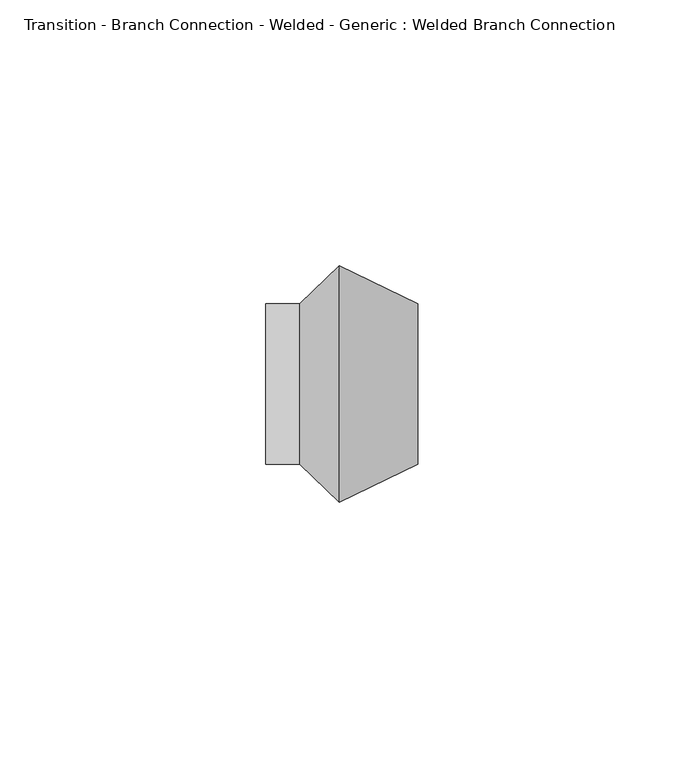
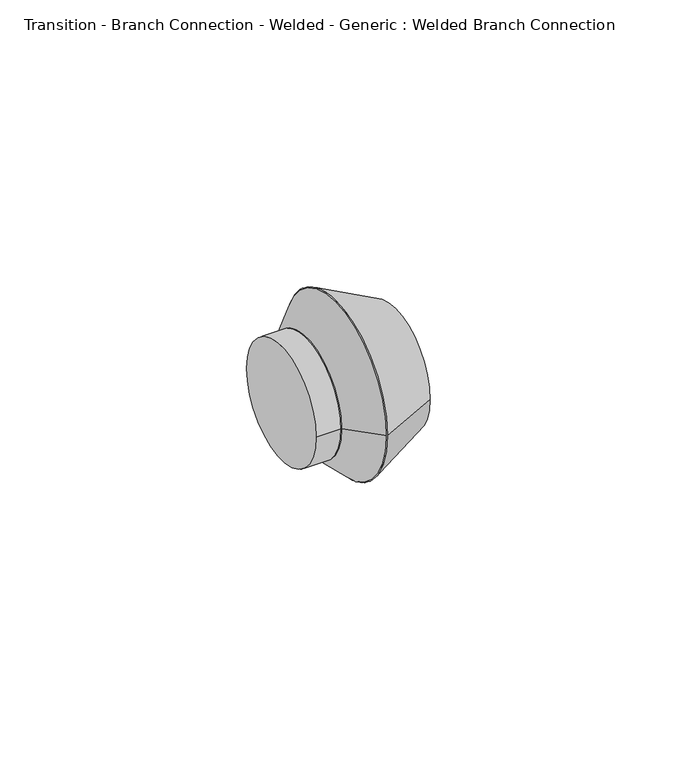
"""IFC4 building model written with IfcOpenShell, lengths in millimetres: pipe fitting geometry, Transition - Branch Connection - Welded - Generic : Welded Branch Connection."""

import ifcopenshell
import ifcopenshell.guid

model = None  # the IFC model being written
_history = None  # IfcOwnerHistory: only IFC2X3 demands one
_inside = {}  # id of a spatial element -> (the spatial element, [elements in it])
_under = {}  # id of a project, library or spatial element -> (it, [spatial elements below it])
_declared = {}  # id of a project -> (the project, [libraries it declares])
_typed = {}  # id of a type object -> (the type object, [elements of that type])
_made_of = {}  # id of a material, layer set ... -> (it, [elements and type objects made of it])


def new_model(schema):
    """Start an empty IFC model of exactly this schema.

    Asked for "IFC4X3", IfcOpenShell would pick the latest addendum, in which some entities
    have other attributes; the version numbers below select the first issue.
    IFC2X3 requires an IfcOwnerHistory on every rooted entity: one is made here for all.
    """
    global model, _history
    if schema == "IFC4X3":
        model = ifcopenshell.file(schema_version=(4, 3, 0, 0))
    else:
        model = ifcopenshell.file(schema=schema)
    _inside.clear()
    _under.clear()
    _declared.clear()
    _typed.clear()
    _made_of.clear()
    _history = None
    if model.schema == "IFC2X3":
        org = make("IfcOrganization", Name="unknown")
        user = make(
            "IfcPersonAndOrganization",
            ThePerson=make("IfcPerson", FamilyName="unknown"),
            TheOrganization=org,
        )
        app = make(
            "IfcApplication",
            ApplicationDeveloper=org,
            Version="unknown",
            ApplicationFullName="unknown",
            ApplicationIdentifier="unknown",
        )
        _history = make(
            "IfcOwnerHistory",
            OwningUser=user,
            OwningApplication=app,
            ChangeAction="ADDED",
            CreationDate=0,
        )
    return model


def make(cls, **values):
    """One entity of the class cls with the attributes given. An attribute that is None is left unset."""
    return model.create_entity(
        cls, **{name: value for name, value in values.items() if value is not None}
    )


def rooted(cls, **values):
    """An entity with a GlobalId (a new one), such as an element, a storey or a relation."""
    return make(cls, GlobalId=ifcopenshell.guid.new(), OwnerHistory=_history, **values)


def si_unit(unit_type, name, prefix=None):
    """IfcSIUnit, for example si_unit("LENGTHUNIT", "METRE", prefix="MILLI")."""
    return make("IfcSIUnit", UnitType=unit_type, Prefix=prefix, Name=name)


def assignment(units):
    """IfcUnitAssignment: the units of a project."""
    return None if units is None else make("IfcUnitAssignment", Units=units)


def point(xyz):
    """IfcCartesianPoint."""
    return None if xyz is None else make("IfcCartesianPoint", Coordinates=xyz)


def direction(xyz):
    """IfcDirection."""
    return None if xyz is None else make("IfcDirection", DirectionRatios=xyz)


def frame(location, z_axis=None, x_axis=None):
    """IfcAxis2Placement3D, a coordinate frame: its origin and axes. An axis left out is left unset."""
    return make(
        "IfcAxis2Placement3D",
        Location=point(location),
        Axis=direction(z_axis),
        RefDirection=direction(x_axis),
    )


def frame_2d(location, x_axis=None):
    """IfcAxis2Placement2D, a coordinate frame in the plane: its origin and x axis."""
    return make(
        "IfcAxis2Placement2D", Location=point(location), RefDirection=direction(x_axis)
    )


def origin():
    """The frame at (0, 0, 0) with its axes left unset."""
    return frame((0.0, 0.0, 0.0))


def origin_2d():
    """The frame at (0, 0) in the plane with its x axis left unset."""
    return frame_2d((0.0, 0.0))


def place(relative_to, where):
    """IfcLocalPlacement: puts the frame where relative to a parent placement (None: the world)."""
    return make(
        "IfcLocalPlacement", PlacementRelTo=relative_to, RelativePlacement=where
    )


def context(
    kind, dimensions, precision=None, world=None, true_north=None, identifier=None
):
    """IfcGeometricRepresentationContext, for example the 3D "Model" context."""
    return make(
        "IfcGeometricRepresentationContext",
        ContextIdentifier=identifier,
        ContextType=kind,
        CoordinateSpaceDimension=dimensions,
        Precision=precision,
        WorldCoordinateSystem=world,
        TrueNorth=true_north,
    )


def project(units=None, contexts=None):
    """IfcProject with its units and contexts."""
    return rooted(
        "IfcProject",
        Name="project",
        RepresentationContexts=contexts,
        UnitsInContext=assignment(units),
    )


def spatial(cls, under=None, at=None, **own):
    """A site, building, storey or space (cls), placed at a placement, below another one or the project."""
    s = rooted(cls, ObjectPlacement=at, **own)
    if under is not None:
        _under.setdefault(under.id(), (under, []))[1].append(s)
    return s


def polyline(points):
    """IfcPolyline through the points."""
    return make("IfcPolyline", Points=[point(p) for p in points])


def circle_curve(where, radius):
    """IfcCircle in the frame where."""
    return make("IfcCircle", Position=where, Radius=radius)


def trimmed(basis, trim1, trim2, sense, master):
    """IfcTrimmedCurve: the piece of a basis curve between two trims."""
    return make(
        "IfcTrimmedCurve",
        BasisCurve=basis,
        Trim1=trim1,
        Trim2=trim2,
        SenseAgreement=sense,
        MasterRepresentation=master,
    )


def segment(curve, same_sense, transition):
    """IfcCompositeCurveSegment."""
    return make(
        "IfcCompositeCurveSegment",
        Transition=transition,
        SameSense=same_sense,
        ParentCurve=curve,
    )


def composite_curve(segments, self_intersect=None):
    """IfcCompositeCurve: segments joined end to end."""
    return make("IfcCompositeCurve", Segments=segments, SelfIntersect=self_intersect)


def outline(outer, holes=None, kind="AREA"):
    """IfcArbitraryClosedProfileDef: a profile drawn as a closed curve; with holes, ...WithVoids."""
    if holes is None:
        return make("IfcArbitraryClosedProfileDef", ProfileType=kind, OuterCurve=outer)
    return make(
        "IfcArbitraryProfileDefWithVoids",
        ProfileType=kind,
        OuterCurve=outer,
        InnerCurves=holes,
    )


def extrude(swept, where, along, depth):
    """IfcExtrudedAreaSolid: the profile swept, set in the frame where, extruded along a direction by depth."""
    return make(
        "IfcExtrudedAreaSolid",
        SweptArea=swept,
        Position=where,
        ExtrudedDirection=direction(along),
        Depth=depth,
    )


def shape(context_of_items, identifier, shape_type, items):
    """IfcShapeRepresentation: the items that make up one representation, for example the "Body"."""
    return make(
        "IfcShapeRepresentation",
        ContextOfItems=context_of_items,
        RepresentationIdentifier=identifier,
        RepresentationType=shape_type,
        Items=items,
    )


def source(mapping_origin, context_of_items, identifier, shape_type, items):
    """IfcRepresentationMap: a shape defined once, which mapped items show again and again."""
    return make(
        "IfcRepresentationMap",
        MappingOrigin=mapping_origin,
        MappedRepresentation=shape(context_of_items, identifier, shape_type, items),
    )


def transform(
    local_origin,
    x_axis=None,
    y_axis=None,
    z_axis=None,
    scale=None,
    scale2=None,
    scale3=None,
    uniform=True,
):
    """IfcCartesianTransformationOperator3D, or its non-uniform kind. x_axis, y_axis, z_axis: its Axis1, 2, 3."""
    if uniform:
        return make(
            "IfcCartesianTransformationOperator3D",
            Axis1=direction(x_axis),
            Axis2=direction(y_axis),
            LocalOrigin=point(local_origin),
            Scale=scale,
            Axis3=direction(z_axis),
        )
    return make(
        "IfcCartesianTransformationOperator3DnonUniform",
        Axis1=direction(x_axis),
        Axis2=direction(y_axis),
        LocalOrigin=point(local_origin),
        Scale=scale,
        Axis3=direction(z_axis),
        Scale2=scale2,
        Scale3=scale3,
    )


def mapped(mapping_source, mapping_target):
    """IfcMappedItem: shows the shape of a source again, moved by a transform."""
    return make(
        "IfcMappedItem", MappingSource=mapping_source, MappingTarget=mapping_target
    )


def made_of(thing, what):
    """Note that an element or type object is made of a material, layer set ...; save() writes the relation."""
    if what is not None:
        _made_of.setdefault(what.id(), (what, []))[1].append(thing)
    return thing


def element(
    cls,
    number,
    at=None,
    inside=None,
    cuts=None,
    type_object=None,
    material=None,
    context=None,
    identifier="Body",
    shape_type=None,
    held_by="IfcProductDefinitionShape",
    body=None,
    shapes=None,
    **own,
):
    """One element of the class cls, such as IfcWall. Its Tag is "e" and its number.

    at: its placement. inside: the storey or other place that contains it. cuts: it is an
    opening in that element (IfcRelVoidsElement). A single representation is given by context,
    identifier, shape_type and body (its items); several are given by shapes. held_by: the class
    of the entity that holds the representations. save() writes the other relations.
    """
    e = rooted(cls, Tag="e%d" % number, ObjectPlacement=at, **own)
    if body is not None:
        shapes = [shape(context, identifier, shape_type, body)]
    if shapes is not None:
        e.Representation = make(held_by, Representations=shapes)
    if inside is not None:
        _inside.setdefault(inside.id(), (inside, []))[1].append(e)
    if cuts is not None:
        rooted(
            "IfcRelVoidsElement", RelatingBuildingElement=cuts, RelatedOpeningElement=e
        )
    if type_object is not None:
        _typed.setdefault(type_object.id(), (type_object, []))[1].append(e)
    return made_of(e, material)


def aggregate(whole, parts):
    """IfcRelAggregates: a whole, such as a stair, and the parts it consists of."""
    return rooted("IfcRelAggregates", RelatingObject=whole, RelatedObjects=parts)


def save(model, path):
    """Write the relations noted so far, then the file.

    IfcRelAggregates (storeys below a building ...), IfcRelContainedInSpatialStructure (elements
    in a storey), IfcRelDefinesByType, IfcRelAssociatesMaterial and IfcRelDeclares: one each for
    every whole, place, type object, material and project.
    """
    for whole, parts in _under.values():
        aggregate(whole, parts)
    for where, things in _inside.values():
        rooted(
            "IfcRelContainedInSpatialStructure",
            RelatedElements=things,
            RelatingStructure=where,
        )
    for kind, things in _typed.values():
        rooted("IfcRelDefinesByType", RelatedObjects=things, RelatingType=kind)
    for what, things in _made_of.values():
        rooted("IfcRelAssociatesMaterial", RelatedObjects=things, RelatingMaterial=what)
    for by, libraries in _declared.values():
        rooted("IfcRelDeclares", RelatingContext=by, RelatedDefinitions=libraries)
    model.write(path)


def plane_surface(at):
    """IfcPlane: the flat surface through the origin of the frame at, square to its z axis."""
    return make("IfcPlane", Position=at)


def revolved_surface(curve, axis_point, axis_direction):
    """IfcSurfaceOfRevolution: the curve turned about the line through axis_point along axis_direction."""
    return make(
        "IfcSurfaceOfRevolution",
        SweptCurve=make("IfcArbitraryOpenProfileDef", ProfileType="CURVE", Curve=curve),
        AxisPosition=make("IfcAxis1Placement", Location=point(axis_point), Axis=direction(axis_direction)),
    )


def advanced_brep(points, edges, surfaces, faces):
    """IfcAdvancedBrep: a solid bounded by faces that lie on surfaces and meet in shared edges.

    An edge is (start, end): straight between two places in points (the first is 0);
    or (start, end, curve); or (start, end, curve, False) where it runs against its curve.
    A face is (place in surfaces, loops), or (place, loops, False) where it looks against
    its surface's normal. A loop lists edges by number (the first is 1), with a minus sign
    where the edge is run from its end to its start. The first loop is the outer one.
    """
    corners = [point(p) for p in points]
    vertices = [make("IfcVertexPoint", VertexGeometry=c) for c in corners]
    made = []
    for start, end, *more in edges:
        made.append(
            make(
                "IfcEdgeCurve",
                EdgeStart=vertices[start],
                EdgeEnd=vertices[end],
                EdgeGeometry=more[0] if more else make("IfcPolyline", Points=[corners[start], corners[end]]),
                SameSense=more[1] if len(more) > 1 else True,
            )
        )
    hull = []
    for where, loops, *sense in faces:
        bounds = []
        for j, loop in enumerate(loops):
            ring = [make("IfcOrientedEdge", EdgeElement=made[abs(k) - 1], Orientation=k > 0) for k in loop]
            bounds.append(
                make(
                    "IfcFaceOuterBound" if j == 0 else "IfcFaceBound",
                    Bound=make("IfcEdgeLoop", EdgeList=ring),
                    Orientation=True,
                )
            )
        hull.append(make("IfcAdvancedFace", Bounds=bounds, FaceSurface=surfaces[where], SameSense=sense[0] if sense else True))
    return make("IfcAdvancedBrep", Outer=make("IfcClosedShell", CfsFaces=hull))


def transition_branch_connection_welded_generic_welded_branch_5a694b29(model_context):
    return source(origin(), model_context, "Body", "SolidModel", [
        advanced_brep(
        [(7.4083333, 22.225, 0.0), (7.4083333, -22.225, 0.0), (22.225, 15.08125, 0.0), (22.225, -15.08125, 0.0)],
        [
            (0, 1, circle_curve(frame((7.4083333, 0.0, 0.0), z_axis=(-1.0, 0.0, 0.0), x_axis=(0.0, -1.0, 0.0)), 22.225)),
            (1, 0, circle_curve(frame((7.4083333, 0.0, 0.0), z_axis=(-1.0, 0.0, 0.0), x_axis=(0.0, 1.0, 0.0)), 22.225)),
            (2, 3, circle_curve(frame((22.225, 0.0, 0.0), z_axis=(1.0, 0.0, 0.0), x_axis=(0.0, 1.0, 0.0)), 15.08125)),
            (3, 2, circle_curve(frame((22.225, 0.0, 0.0), z_axis=(1.0, 0.0, 0.0), x_axis=(0.0, -1.0, 0.0)), 15.08125)),
            (3, 1),
            (0, 2),
        ],
        [
            plane_surface(frame((7.4083333, 0.0, 0.0), z_axis=(-1.0, 0.0, 0.0), x_axis=(0.0, 0.0, -1.0))),
            plane_surface(frame((22.225, 0.0, 0.0), z_axis=(1.0, 0.0, 0.0), x_axis=(0.0, 0.0, -1.0))),
            revolved_surface(polyline([(22.225000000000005, -15.081249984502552, 0.0), (7.4083333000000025, -22.225, 0.0)]), (53.5046296, 0.0, 0.0), (-1.0, 0.0, 0.0)),
            revolved_surface(polyline([(22.225000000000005, 15.081249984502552, 0.0), (7.4083333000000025, 22.225, 0.0)]), (53.5046296, 0.0, 0.0), (-1.0, 0.0, 0.0)),
        ],
        [
            (0, [[1, 2]]),
            (1, [[3, 4]]),
            (2, [[5, -1, 6, -4]]),
            (3, [[-6, -2, -5, -3]]),
        ],
    ),
        advanced_brep(
        [(7.4083333, 22.225, 0.0), (7.4083333, -22.225, 0.0), (0.0, 15.08125, 0.0), (0.0, -15.08125, 0.0)],
        [
            (0, 1, circle_curve(frame((7.4083333, 0.0, 0.0), z_axis=(1.0, 0.0, 0.0), x_axis=(0.0, -1.0, 0.0)), 22.225)),
            (1, 0, circle_curve(frame((7.4083333, 0.0, 0.0), z_axis=(1.0, 0.0, 0.0), x_axis=(0.0, 1.0, 0.0)), 22.225)),
            (2, 3, circle_curve(frame((0.0, 0.0, 0.0), z_axis=(-1.0, 0.0, 0.0), x_axis=(0.0, 1.0, 0.0)), 15.08125)),
            (3, 2, circle_curve(frame((0.0, 0.0, 0.0), z_axis=(-1.0, 0.0, 0.0), x_axis=(0.0, -1.0, 0.0)), 15.08125)),
            (2, 0),
            (1, 3),
        ],
        [
            plane_surface(frame((7.4083333, 0.0, 0.0), z_axis=(1.0, 0.0, 0.0), x_axis=(0.0, 0.0, -1.0))),
            plane_surface(frame((0.0, 0.0, 0.0), z_axis=(-1.0, 0.0, 0.0), x_axis=(0.0, 0.0, -1.0))),
            revolved_surface(polyline([(0.0, 15.08125001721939, 0.0), (7.408333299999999, 22.225, 0.0)]), (-15.6398148, 0.0, 0.0), (1.0, 0.0, 0.0)),
            revolved_surface(polyline([(0.0, -15.08125001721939, 0.0), (7.408333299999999, -22.225, 0.0)]), (-15.6398148, 0.0, 0.0), (1.0, 0.0, 0.0)),
        ],
        [
            (0, [[1, 2]]),
            (1, [[3, 4]]),
            (2, [[5, -2, 6, -3]]),
            (3, [[-6, -1, -5, -4]]),
        ],
    ),
        extrude(outline(composite_curve([segment(trimmed(circle_curve(origin_2d(), 15.08125), [point((15.08125, 0.0))], [point((-15.08125, 0.0))], False, "CARTESIAN"), True, "CONTINUOUS"), segment(trimmed(circle_curve(origin_2d(), 15.08125), [point((-15.08125, 0.0))], [point((15.08125, 0.0))], False, "CARTESIAN"), True, "CONTINUOUS")], self_intersect=False)), frame((-6.3909494, 0.0, 0.0), z_axis=(1.0, 0.0, 0.0), x_axis=(0.0, 1.0, 0.0)), (0.0, 0.0, 1.0), 6.3909494),
    ])


if __name__ == "__main__":
    model = new_model("IFC4")
    model_context = context("Model", 3, world=origin())
    ifc_project = project(units=[si_unit("LENGTHUNIT", "METRE", prefix="MILLI")], contexts=[model_context])
    site = spatial("IfcSite", under=ifc_project)
    building = spatial("IfcBuilding", under=site)
    placement = place(None, origin())
    transition_branch_connection_welded_generic_welded_branch_shape = transition_branch_connection_welded_generic_welded_branch_5a694b29(model_context)
    element("IfcPipeFitting", 1, ObjectType="Transition - Branch Connection - Welded - Generic : Welded Branch Connection", at=placement, inside=building, context=model_context, shape_type="MappedRepresentation", body=[
        mapped(transition_branch_connection_welded_generic_welded_branch_shape, transform((0.0, 0.0, 0.0), x_axis=(1.0, 0.0, 0.0), y_axis=(0.0, 1.0, 0.0), z_axis=(0.0, 0.0, 1.0))),
    ])
    save(model, "model.ifc")
